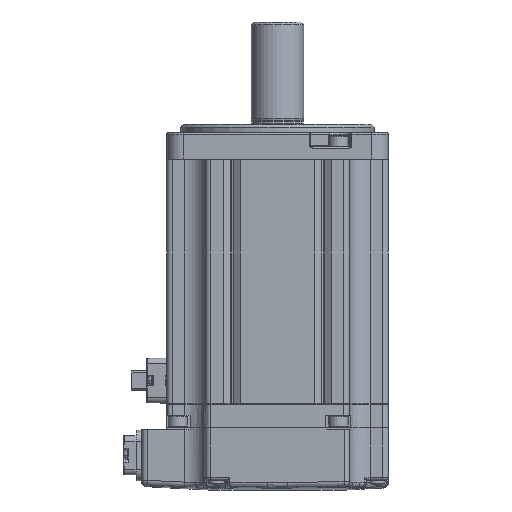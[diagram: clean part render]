
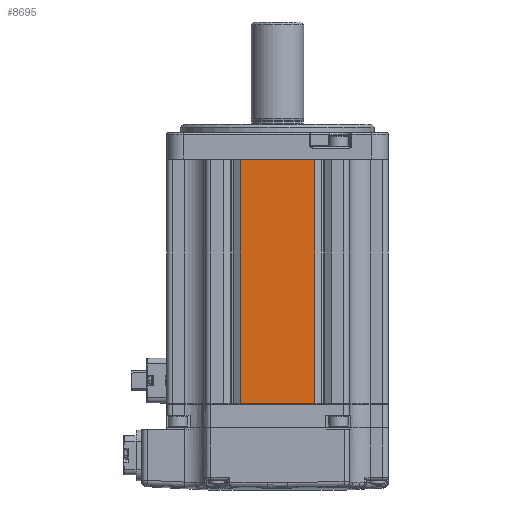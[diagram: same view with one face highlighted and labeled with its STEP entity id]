
A CAD part, front view. The second image highlights one B-rep face of the part: STEP entity #8695.
In plain terms, the highlighted planar face has unit normal (0, -1, 0).
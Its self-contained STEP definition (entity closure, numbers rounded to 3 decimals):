
#489 = DIRECTION ( 'NONE',  ( 0., 1., 0. ) ) ;
#591 = EDGE_CURVE ( 'NONE', #30100, #1933, #17549, .T. ) ;
#1933 = VERTEX_POINT ( 'NONE', #40529 ) ;
#2235 = DIRECTION ( 'NONE',  ( 1., 0., 0. ) ) ;
#2868 = CARTESIAN_POINT ( 'NONE',  ( 0., -40., 0. ) ) ;
#4075 = ORIENTED_EDGE ( 'NONE', *, *, #14064, .F. ) ;
#4880 = CARTESIAN_POINT ( 'NONE',  ( -13.5, -40., -79.5 ) ) ;
#5782 = LINE ( 'NONE', #4880, #35346 ) ;
#5808 = ORIENTED_EDGE ( 'NONE', *, *, #36685, .T. ) ;
#7480 = DIRECTION ( 'NONE',  ( 0., 0., 1. ) ) ;
#8695 = ADVANCED_FACE ( 'NONE', ( #23423 ), #34811, .F. ) ;
#9884 = CARTESIAN_POINT ( 'NONE',  ( -13.5, -40., 7.8 ) ) ;
#9931 = LINE ( 'NONE', #39342, #17413 ) ;
#10634 = VECTOR ( 'NONE', #26168, 1000. ) ;
#13172 = AXIS2_PLACEMENT_3D ( 'NONE', #2868, #489, #17991 ) ;
#14064 = EDGE_CURVE ( 'NONE', #30100, #24767, #5782, .T. ) ;
#17413 = VECTOR ( 'NONE', #23639, 1000. ) ;
#17549 = LINE ( 'NONE', #38182, #36009 ) ;
#17991 = DIRECTION ( 'NONE',  ( -1., 0., 0. ) ) ;
#20655 = VERTEX_POINT ( 'NONE', #37697 ) ;
#21426 = CARTESIAN_POINT ( 'NONE',  ( -13.5, -40., -80.3 ) ) ;
#23423 = FACE_OUTER_BOUND ( 'NONE', #37940, .T. ) ;
#23639 = DIRECTION ( 'NONE',  ( -1., 0., 0. ) ) ;
#24730 = ORIENTED_EDGE ( 'NONE', *, *, #591, .T. ) ;
#24767 = VERTEX_POINT ( 'NONE', #9884 ) ;
#26168 = DIRECTION ( 'NONE',  ( 0., 0., 1. ) ) ;
#29926 = ORIENTED_EDGE ( 'NONE', *, *, #30934, .T. ) ;
#30100 = VERTEX_POINT ( 'NONE', #21426 ) ;
#30934 = EDGE_CURVE ( 'NONE', #1933, #20655, #35844, .T. ) ;
#32519 = CARTESIAN_POINT ( 'NONE',  ( 13.5, -40., -79.5 ) ) ;
#34811 = PLANE ( 'NONE',  #13172 ) ;
#35346 = VECTOR ( 'NONE', #7480, 1000. ) ;
#35844 = LINE ( 'NONE', #32519, #10634 ) ;
#36009 = VECTOR ( 'NONE', #2235, 1000. ) ;
#36685 = EDGE_CURVE ( 'NONE', #20655, #24767, #9931, .T. ) ;
#37697 = CARTESIAN_POINT ( 'NONE',  ( 13.5, -40., 7.8 ) ) ;
#37940 = EDGE_LOOP ( 'NONE', ( #4075, #24730, #29926, #5808 ) ) ;
#38182 = CARTESIAN_POINT ( 'NONE',  ( 13.5, -40., -80.3 ) ) ;
#39342 = CARTESIAN_POINT ( 'NONE',  ( -13.5, -40., 7.8 ) ) ;
#40529 = CARTESIAN_POINT ( 'NONE',  ( 13.5, -40., -80.3 ) ) ;
